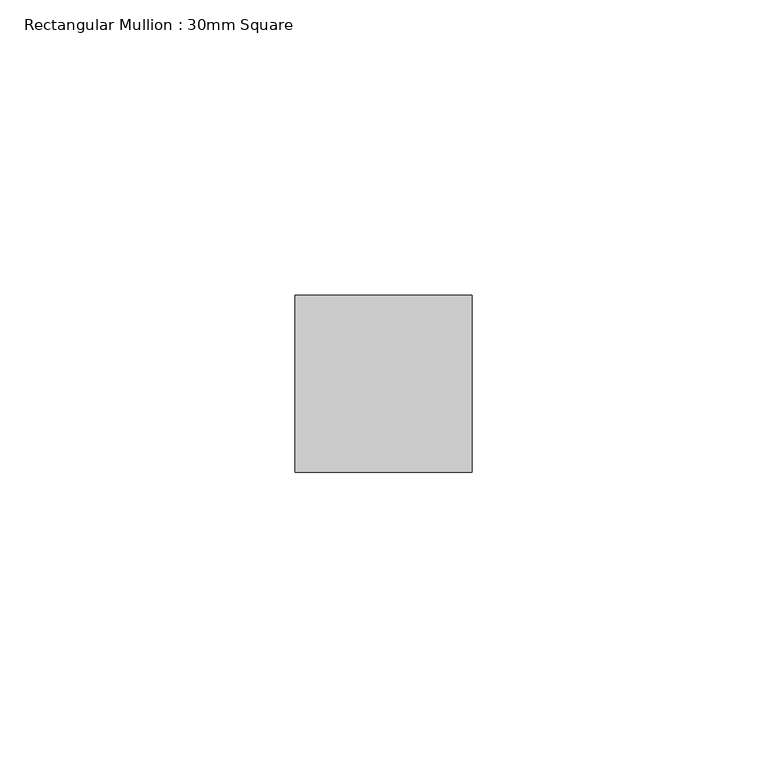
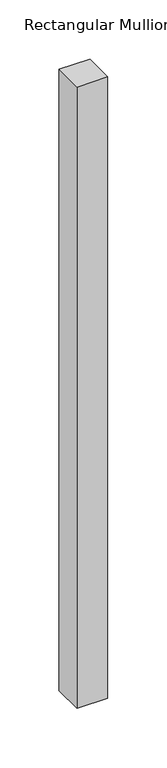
"""IFC4 building model written with IfcOpenShell, lengths in millimetres: member geometry, Rectangular Mullion : 30mm Square."""

import ifcopenshell
import ifcopenshell.guid

model = None  # the IFC model being written
_history = None  # IfcOwnerHistory: only IFC2X3 demands one
_inside = {}  # id of a spatial element -> (the spatial element, [elements in it])
_under = {}  # id of a project, library or spatial element -> (it, [spatial elements below it])
_declared = {}  # id of a project -> (the project, [libraries it declares])
_typed = {}  # id of a type object -> (the type object, [elements of that type])
_made_of = {}  # id of a material, layer set ... -> (it, [elements and type objects made of it])


def new_model(schema):
    """Start an empty IFC model of exactly this schema.

    Asked for "IFC4X3", IfcOpenShell would pick the latest addendum, in which some entities
    have other attributes; the version numbers below select the first issue.
    IFC2X3 requires an IfcOwnerHistory on every rooted entity: one is made here for all.
    """
    global model, _history
    if schema == "IFC4X3":
        model = ifcopenshell.file(schema_version=(4, 3, 0, 0))
    else:
        model = ifcopenshell.file(schema=schema)
    _inside.clear()
    _under.clear()
    _declared.clear()
    _typed.clear()
    _made_of.clear()
    _history = None
    if model.schema == "IFC2X3":
        org = make("IfcOrganization", Name="unknown")
        user = make(
            "IfcPersonAndOrganization",
            ThePerson=make("IfcPerson", FamilyName="unknown"),
            TheOrganization=org,
        )
        app = make(
            "IfcApplication",
            ApplicationDeveloper=org,
            Version="unknown",
            ApplicationFullName="unknown",
            ApplicationIdentifier="unknown",
        )
        _history = make(
            "IfcOwnerHistory",
            OwningUser=user,
            OwningApplication=app,
            ChangeAction="ADDED",
            CreationDate=0,
        )
    return model


def make(cls, **values):
    """One entity of the class cls with the attributes given. An attribute that is None is left unset."""
    return model.create_entity(
        cls, **{name: value for name, value in values.items() if value is not None}
    )


def rooted(cls, **values):
    """An entity with a GlobalId (a new one), such as an element, a storey or a relation."""
    return make(cls, GlobalId=ifcopenshell.guid.new(), OwnerHistory=_history, **values)


def si_unit(unit_type, name, prefix=None):
    """IfcSIUnit, for example si_unit("LENGTHUNIT", "METRE", prefix="MILLI")."""
    return make("IfcSIUnit", UnitType=unit_type, Prefix=prefix, Name=name)


def assignment(units):
    """IfcUnitAssignment: the units of a project."""
    return None if units is None else make("IfcUnitAssignment", Units=units)


def point(xyz):
    """IfcCartesianPoint."""
    return None if xyz is None else make("IfcCartesianPoint", Coordinates=xyz)


def direction(xyz):
    """IfcDirection."""
    return None if xyz is None else make("IfcDirection", DirectionRatios=xyz)


def frame(location, z_axis=None, x_axis=None):
    """IfcAxis2Placement3D, a coordinate frame: its origin and axes. An axis left out is left unset."""
    return make(
        "IfcAxis2Placement3D",
        Location=point(location),
        Axis=direction(z_axis),
        RefDirection=direction(x_axis),
    )


def origin():
    """The frame at (0, 0, 0) with its axes left unset."""
    return frame((0.0, 0.0, 0.0))


def place(relative_to, where):
    """IfcLocalPlacement: puts the frame where relative to a parent placement (None: the world)."""
    return make(
        "IfcLocalPlacement", PlacementRelTo=relative_to, RelativePlacement=where
    )


def context(
    kind, dimensions, precision=None, world=None, true_north=None, identifier=None
):
    """IfcGeometricRepresentationContext, for example the 3D "Model" context."""
    return make(
        "IfcGeometricRepresentationContext",
        ContextIdentifier=identifier,
        ContextType=kind,
        CoordinateSpaceDimension=dimensions,
        Precision=precision,
        WorldCoordinateSystem=world,
        TrueNorth=true_north,
    )


def project(units=None, contexts=None):
    """IfcProject with its units and contexts."""
    return rooted(
        "IfcProject",
        Name="project",
        RepresentationContexts=contexts,
        UnitsInContext=assignment(units),
    )


def spatial(cls, under=None, at=None, **own):
    """A site, building, storey or space (cls), placed at a placement, below another one or the project."""
    s = rooted(cls, ObjectPlacement=at, **own)
    if under is not None:
        _under.setdefault(under.id(), (under, []))[1].append(s)
    return s


def polyline(points):
    """IfcPolyline through the points."""
    return make("IfcPolyline", Points=[point(p) for p in points])


def outline(outer, holes=None, kind="AREA"):
    """IfcArbitraryClosedProfileDef: a profile drawn as a closed curve; with holes, ...WithVoids."""
    if holes is None:
        return make("IfcArbitraryClosedProfileDef", ProfileType=kind, OuterCurve=outer)
    return make(
        "IfcArbitraryProfileDefWithVoids",
        ProfileType=kind,
        OuterCurve=outer,
        InnerCurves=holes,
    )


def extrude(swept, where, along, depth):
    """IfcExtrudedAreaSolid: the profile swept, set in the frame where, extruded along a direction by depth."""
    return make(
        "IfcExtrudedAreaSolid",
        SweptArea=swept,
        Position=where,
        ExtrudedDirection=direction(along),
        Depth=depth,
    )


def shape(context_of_items, identifier, shape_type, items):
    """IfcShapeRepresentation: the items that make up one representation, for example the "Body"."""
    return make(
        "IfcShapeRepresentation",
        ContextOfItems=context_of_items,
        RepresentationIdentifier=identifier,
        RepresentationType=shape_type,
        Items=items,
    )


def source(mapping_origin, context_of_items, identifier, shape_type, items):
    """IfcRepresentationMap: a shape defined once, which mapped items show again and again."""
    return make(
        "IfcRepresentationMap",
        MappingOrigin=mapping_origin,
        MappedRepresentation=shape(context_of_items, identifier, shape_type, items),
    )


def transform(
    local_origin,
    x_axis=None,
    y_axis=None,
    z_axis=None,
    scale=None,
    scale2=None,
    scale3=None,
    uniform=True,
):
    """IfcCartesianTransformationOperator3D, or its non-uniform kind. x_axis, y_axis, z_axis: its Axis1, 2, 3."""
    if uniform:
        return make(
            "IfcCartesianTransformationOperator3D",
            Axis1=direction(x_axis),
            Axis2=direction(y_axis),
            LocalOrigin=point(local_origin),
            Scale=scale,
            Axis3=direction(z_axis),
        )
    return make(
        "IfcCartesianTransformationOperator3DnonUniform",
        Axis1=direction(x_axis),
        Axis2=direction(y_axis),
        LocalOrigin=point(local_origin),
        Scale=scale,
        Axis3=direction(z_axis),
        Scale2=scale2,
        Scale3=scale3,
    )


def mapped(mapping_source, mapping_target):
    """IfcMappedItem: shows the shape of a source again, moved by a transform."""
    return make(
        "IfcMappedItem", MappingSource=mapping_source, MappingTarget=mapping_target
    )


def made_of(thing, what):
    """Note that an element or type object is made of a material, layer set ...; save() writes the relation."""
    if what is not None:
        _made_of.setdefault(what.id(), (what, []))[1].append(thing)
    return thing


def element(
    cls,
    number,
    at=None,
    inside=None,
    cuts=None,
    type_object=None,
    material=None,
    context=None,
    identifier="Body",
    shape_type=None,
    held_by="IfcProductDefinitionShape",
    body=None,
    shapes=None,
    **own,
):
    """One element of the class cls, such as IfcWall. Its Tag is "e" and its number.

    at: its placement. inside: the storey or other place that contains it. cuts: it is an
    opening in that element (IfcRelVoidsElement). A single representation is given by context,
    identifier, shape_type and body (its items); several are given by shapes. held_by: the class
    of the entity that holds the representations. save() writes the other relations.
    """
    e = rooted(cls, Tag="e%d" % number, ObjectPlacement=at, **own)
    if body is not None:
        shapes = [shape(context, identifier, shape_type, body)]
    if shapes is not None:
        e.Representation = make(held_by, Representations=shapes)
    if inside is not None:
        _inside.setdefault(inside.id(), (inside, []))[1].append(e)
    if cuts is not None:
        rooted(
            "IfcRelVoidsElement", RelatingBuildingElement=cuts, RelatedOpeningElement=e
        )
    if type_object is not None:
        _typed.setdefault(type_object.id(), (type_object, []))[1].append(e)
    return made_of(e, material)


def aggregate(whole, parts):
    """IfcRelAggregates: a whole, such as a stair, and the parts it consists of."""
    return rooted("IfcRelAggregates", RelatingObject=whole, RelatedObjects=parts)


def save(model, path):
    """Write the relations noted so far, then the file.

    IfcRelAggregates (storeys below a building ...), IfcRelContainedInSpatialStructure (elements
    in a storey), IfcRelDefinesByType, IfcRelAssociatesMaterial and IfcRelDeclares: one each for
    every whole, place, type object, material and project.
    """
    for whole, parts in _under.values():
        aggregate(whole, parts)
    for where, things in _inside.values():
        rooted(
            "IfcRelContainedInSpatialStructure",
            RelatedElements=things,
            RelatingStructure=where,
        )
    for kind, things in _typed.values():
        rooted("IfcRelDefinesByType", RelatedObjects=things, RelatingType=kind)
    for what, things in _made_of.values():
        rooted("IfcRelAssociatesMaterial", RelatedObjects=things, RelatingMaterial=what)
    for by, libraries in _declared.values():
        rooted("IfcRelDeclares", RelatingContext=by, RelatedDefinitions=libraries)
    model.write(path)


def rectangular_mullion_30mm_square_acb643bc(model_context):
    return source(origin(), model_context, "Body", "SweptSolid", [
        extrude(outline(polyline([(0.0, 15.0), (0.0, -15.0), (-30.0, -15.0), (-30.0, 15.0), (0.0, 15.0)])), frame((0.0, 0.0, -640.0), z_axis=(0.0, 0.0, 1.0), x_axis=(1.0, 0.0, 0.0)), (0.0, 0.0, 1.0), 640.0),
    ])


if __name__ == "__main__":
    model = new_model("IFC4")
    model_context = context("Model", 3, world=origin())
    ifc_project = project(units=[si_unit("LENGTHUNIT", "METRE", prefix="MILLI")], contexts=[model_context])
    site = spatial("IfcSite", under=ifc_project)
    building = spatial("IfcBuilding", under=site)
    placement = place(None, origin())
    rectangular_mullion_30mm_square_shape = rectangular_mullion_30mm_square_acb643bc(model_context)
    element("IfcMember", 1, ObjectType="Rectangular Mullion : 30mm Square", at=placement, inside=building, context=model_context, shape_type="MappedRepresentation", body=[
        mapped(rectangular_mullion_30mm_square_shape, transform((0.0, 0.0, 0.0), x_axis=(1.0, 0.0, 0.0), y_axis=(0.0, 1.0, 0.0), z_axis=(0.0, 0.0, 1.0))),
    ])
    save(model, "model.ifc")
